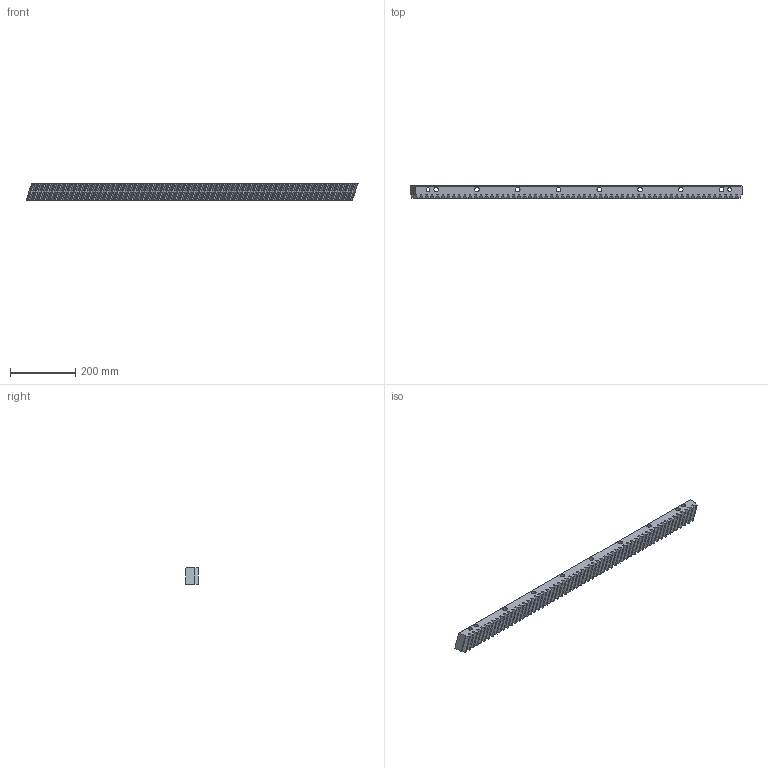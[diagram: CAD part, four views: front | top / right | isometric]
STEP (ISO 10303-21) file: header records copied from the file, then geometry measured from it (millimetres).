
FILE_DESCRIPTION(/* description */ (''),/* implementation_level */ '2;1');
FILE_NAME(/* name */ 'BL-1HR29R050100H.ipt',/* time_stamp */ '2019-06-18T14:27:19+02:00',/* author */ ('VĂ©gh MĂˇtĂ©'),/* organization */ ('Bearing Kft'),/* preprocessor_version */ 'ST-DEVELOPER v16.7',/* originating_system */ 'DEX',/* authorisation */ $);
FILE_SCHEMA (('AUTOMOTIVE_DESIGN {1 0 10303 214 3 1 1}'));
Length unit declared in the file: millimetre
Products named in the file (1): BL-1HR29R050100H.ipt
Bounding box: 1017.74 x 39 x 50 mm (x, y, z)
Volume: 1590556 mm3; surface area: 238851.2 mm2
Topology: 1 solids, 1 shells, 734 faces, 2001 edges, 1334 vertices
Faces by surface type: plane 515, bspline 199, cylinder 20
Full cylindrical faces by diameter (mm): 11.7 x2, 14 x8, 20 x8
Entity records: 33571 total; most frequent: CARTESIAN_POINT 10859, ORIENTED_EDGE 3946, DIRECTION 2927, EDGE_CURVE 1973, LINE 1535, VECTOR 1535, VERTEX_POINT 1334, EDGE_LOOP 847
